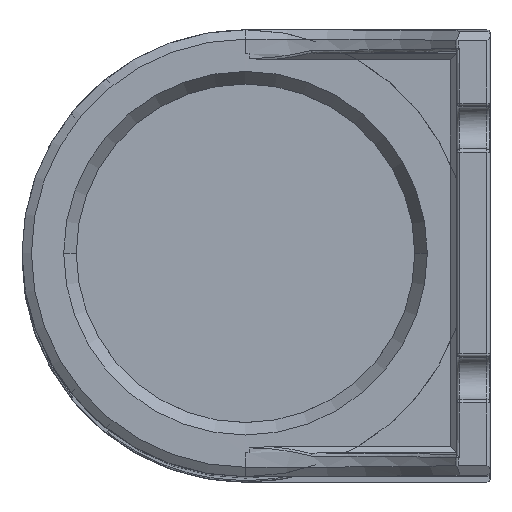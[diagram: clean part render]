
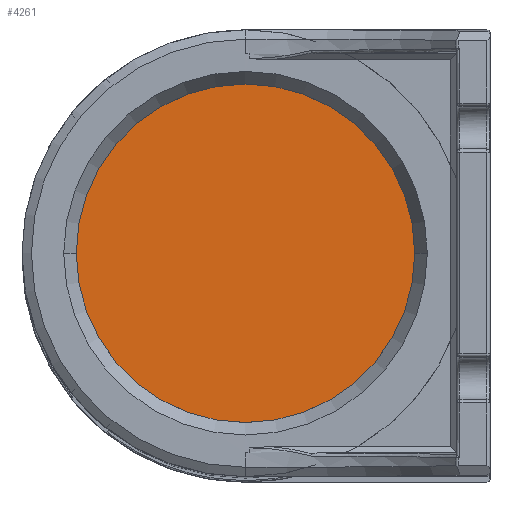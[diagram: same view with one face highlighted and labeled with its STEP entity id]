
A CAD part, top view. The second image highlights one B-rep face of the part: STEP entity #4261.
In plain terms, the highlighted planar face has unit normal (0, 0, 1).
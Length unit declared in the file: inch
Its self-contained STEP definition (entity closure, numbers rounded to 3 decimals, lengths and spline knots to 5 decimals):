
#80=CARTESIAN_POINT('',(1.37795,1.37795,0.46457));
#81=DIRECTION('',(0.,0.,-1.));
#82=DIRECTION('',(1.,0.,0.));
#83=AXIS2_PLACEMENT_3D('',#80,#81,#82);
#85=CARTESIAN_POINT('',(1.37795,1.37795,0.46457));
#86=DIRECTION('',(0.,0.,-1.));
#87=DIRECTION('',(-1.,0.,0.));
#88=AXIS2_PLACEMENT_3D('',#85,#86,#87);
#3371=CARTESIAN_POINT('',(2.44094,1.37795,0.46457));
#3372=CARTESIAN_POINT('',(0.31496,1.37795,
0.46457));
#3373=VERTEX_POINT('',#3371);
#3374=VERTEX_POINT('',#3372);
#4250=CARTESIAN_POINT('',(1.37795,1.37795,0.46457));
#4251=DIRECTION('',(0.,0.,1.));
#4252=DIRECTION('',(-1.,0.,0.));
#4253=AXIS2_PLACEMENT_3D('',#4250,#4251,#4252);
#4254=PLANE('',#4253);
#4256=ORIENTED_EDGE('',*,*,#4255,.T.);
#4258=ORIENTED_EDGE('',*,*,#4257,.T.);
#4259=EDGE_LOOP('',(#4256,#4258));
#4260=FACE_OUTER_BOUND('',#4259,.F.);
#4261=ADVANCED_FACE('',(#4260),#4254,.T.);
#84=CIRCLE('',#83,1.06299);
#89=CIRCLE('',#88,1.06299);
#4255=EDGE_CURVE('',#3373,#3374,#84,.T.);
#4257=EDGE_CURVE('',#3374,#3373,#89,.T.);
